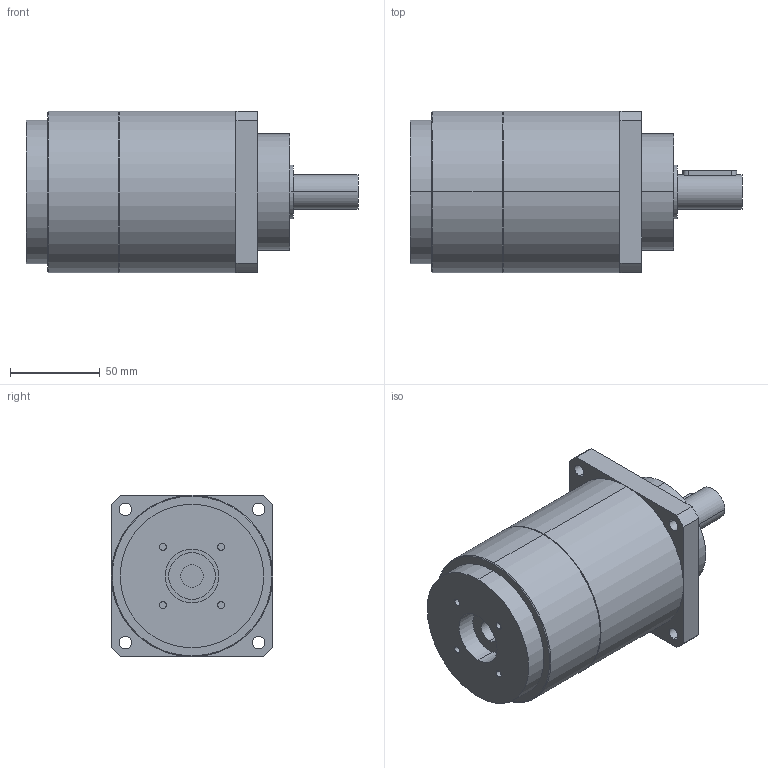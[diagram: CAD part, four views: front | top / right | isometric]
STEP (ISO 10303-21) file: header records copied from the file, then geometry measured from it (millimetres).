
FILE_DESCRIPTION(('CoCreate Modeling STEP Export'),'2;1');
FILE_NAME('GPT90_ig-9-12-16-20-25-28-35-40-50-70-100_19_B5T_12.7_P24.stp','2015-02-04T11:27:49',(''),(''),'CoCreate Modeling STEP processor for AP214 (Solid Model)','CoCreate Modeling 16.00C 25-Feb-2009 (C) Parametric Technology GmbH','');
FILE_SCHEMA(('AUTOMOTIVE_DESIGN { 1 0 10303 214 1 1 1 1 }'));
Length unit declared in the file: millimetre
Products named in the file (2): GPT90_ig-9-12-16-20-25-28-35-40-50-70-100_19_B5T_12.7_P24
Assembly tree (1 placements, depth 2):
  GPT90_ig-9-12-16-20-25-28-35-40-50-70-100_19_B5T_12.7_P24
    GPT90_ig-9-12-16-20-25-28-35-40-50-70-100_19_B5T_12.7_P24
Bounding box: 185 x 90 x 90 mm (x, y, z)
Volume: 882361.3 mm3; surface area: 63711.5 mm2
Topology: 1 solids, 1 shells, 72 faces, 182 edges, 125 vertices
Faces by surface type: cylinder 42, plane 26, cone 4
Entity records: 2313 total; most frequent: CARTESIAN_POINT 692, ORIENTED_EDGE 364, DIRECTION 272, EDGE_CURVE 182, VERTEX_POINT 125, AXIS2_PLACEMENT_3D 102, EDGE_LOOP 93, FACE_OUTER_BOUND 72
